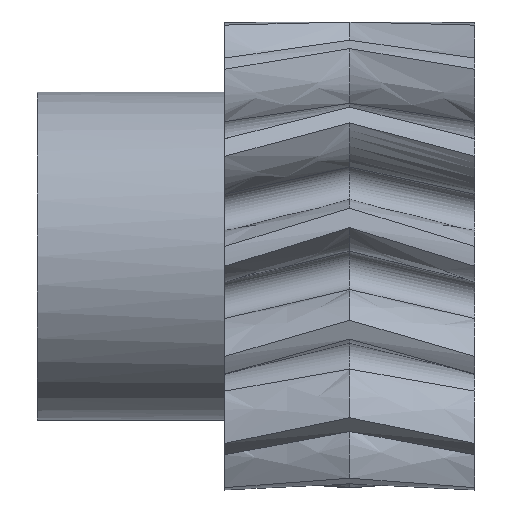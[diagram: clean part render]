
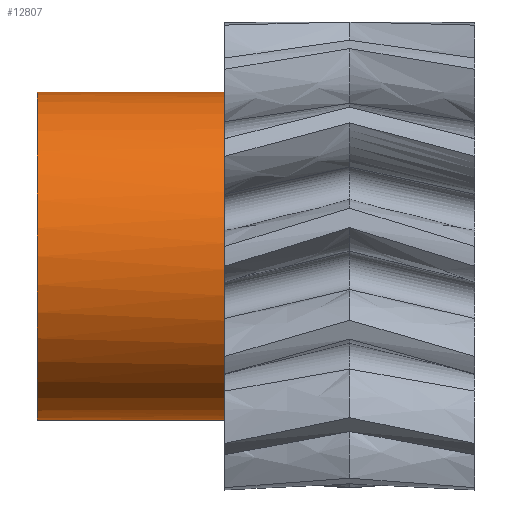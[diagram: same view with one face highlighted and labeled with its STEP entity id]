
A CAD part, left-side view. The second image highlights one B-rep face of the part: STEP entity #12807.
In plain terms, the highlighted cylindrical face has radius 5.25 mm (diameter 10.5 mm), a partial arc.
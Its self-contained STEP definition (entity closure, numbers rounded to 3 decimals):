
#11 = DIRECTION ( 'NONE',  ( 0., -1., 0. ) ) ;
#25 = ORIENTED_EDGE ( 'NONE', *, *, #12238, .T. ) ;
#63 = VERTEX_POINT ( 'NONE', #2931 ) ;
#276 = DIRECTION ( 'NONE',  ( 0., 0., 1. ) ) ;
#520 = VERTEX_POINT ( 'NONE', #10948 ) ;
#872 = DIRECTION ( 'NONE',  ( 0., 1., 0. ) ) ;
#1102 = VERTEX_POINT ( 'NONE', #16288 ) ;
#1390 = AXIS2_PLACEMENT_3D ( 'NONE', #16551, #16469, #9709 ) ;
#1540 = EDGE_CURVE ( 'NONE', #63, #14493, #7695, .T. ) ;
#1541 = CARTESIAN_POINT ( 'NONE',  ( 0., 0., 0. ) ) ;
#1940 = CIRCLE ( 'NONE', #5720, 5.25 ) ;
#2056 = ORIENTED_EDGE ( 'NONE', *, *, #13327, .T. ) ;
#2130 = VECTOR ( 'NONE', #10476, 1000. ) ;
#2185 = AXIS2_PLACEMENT_3D ( 'NONE', #7581, #15210, #16559 ) ;
#2858 = CIRCLE ( 'NONE', #8533, 5.25 ) ;
#2931 = CARTESIAN_POINT ( 'NONE',  ( 0., 6., 5.25 ) ) ;
#3064 = ORIENTED_EDGE ( 'NONE', *, *, #8711, .T. ) ;
#3147 = DIRECTION ( 'NONE',  ( 0., 0., 1. ) ) ;
#3324 = CARTESIAN_POINT ( 'NONE',  ( 0., 6., -5.25 ) ) ;
#3467 = VERTEX_POINT ( 'NONE', #10879 ) ;
#3766 = DIRECTION ( 'NONE',  ( 0., 1., 0. ) ) ;
#3935 = CARTESIAN_POINT ( 'NONE',  ( 0., 0., 0. ) ) ;
#4033 = ORIENTED_EDGE ( 'NONE', *, *, #8962, .F. ) ;
#4137 = VECTOR ( 'NONE', #11, 1000. ) ;
#4239 = DIRECTION ( 'NONE',  ( 0., 1., 0. ) ) ;
#4359 = CARTESIAN_POINT ( 'NONE',  ( 0., 0., 5.25 ) ) ;
#4523 = AXIS2_PLACEMENT_3D ( 'NONE', #13865, #4713, #13699 ) ;
#4713 = DIRECTION ( 'NONE',  ( 0., -1., 0. ) ) ;
#4957 = FACE_OUTER_BOUND ( 'NONE', #8773, .T. ) ;
#5165 = CARTESIAN_POINT ( 'NONE',  ( 0., 6., 5.25 ) ) ;
#5417 = LINE ( 'NONE', #10565, #2130 ) ;
#5463 = DIRECTION ( 'NONE',  ( 0., 1., 0. ) ) ;
#5638 = DIRECTION ( 'NONE',  ( 0., 0., 1. ) ) ;
#5720 = AXIS2_PLACEMENT_3D ( 'NONE', #9608, #5809, #5638 ) ;
#5809 = DIRECTION ( 'NONE',  ( 0., 1., 0. ) ) ;
#5923 = VERTEX_POINT ( 'NONE', #8185 ) ;
#6520 = CIRCLE ( 'NONE', #1390, 5.25 ) ;
#6684 = AXIS2_PLACEMENT_3D ( 'NONE', #1541, #3766, #9483 ) ;
#7234 = AXIS2_PLACEMENT_3D ( 'NONE', #3935, #5463, #14264 ) ;
#7581 = CARTESIAN_POINT ( 'NONE',  ( 0., 0., 0. ) ) ;
#7695 = LINE ( 'NONE', #5165, #4137 ) ;
#7899 = DIRECTION ( 'NONE',  ( 0., 1., 0. ) ) ;
#8184 = ORIENTED_EDGE ( 'NONE', *, *, #1540, .F. ) ;
#8185 = CARTESIAN_POINT ( 'NONE',  ( 0., 0., -5.25 ) ) ;
#8533 = AXIS2_PLACEMENT_3D ( 'NONE', #16090, #7899, #3147 ) ;
#8711 = EDGE_CURVE ( 'NONE', #520, #1102, #9451, .T. ) ;
#8773 = EDGE_LOOP ( 'NONE', ( #8184, #4033, #14467, #2056, #25, #10286, #11696, #10199, #3064, #9826 ) ) ;
#8962 = EDGE_CURVE ( 'NONE', #10411, #63, #2858, .T. ) ;
#9324 = AXIS2_PLACEMENT_3D ( 'NONE', #14916, #872, #11269 ) ;
#9451 = CIRCLE ( 'NONE', #2185, 5.25 ) ;
#9483 = DIRECTION ( 'NONE',  ( 0., 0., 1. ) ) ;
#9608 = CARTESIAN_POINT ( 'NONE',  ( 0., 0., 0. ) ) ;
#9709 = DIRECTION ( 'NONE',  ( 0., 0., 1. ) ) ;
#9826 = ORIENTED_EDGE ( 'NONE', *, *, #12311, .T. ) ;
#9946 = CARTESIAN_POINT ( 'NONE',  ( -5.097, 0., -1.256 ) ) ;
#10199 = ORIENTED_EDGE ( 'NONE', *, *, #14173, .T. ) ;
#10286 = ORIENTED_EDGE ( 'NONE', *, *, #10844, .T. ) ;
#10411 = VERTEX_POINT ( 'NONE', #3324 ) ;
#10476 = DIRECTION ( 'NONE',  ( 0., -1., 0. ) ) ;
#10565 = CARTESIAN_POINT ( 'NONE',  ( 0., 6., -5.25 ) ) ;
#10844 = EDGE_CURVE ( 'NONE', #15562, #15478, #15822, .T. ) ;
#10879 = CARTESIAN_POINT ( 'NONE',  ( -5.097, 0., 1.256 ) ) ;
#10948 = CARTESIAN_POINT ( 'NONE',  ( -3.93, 0., 3.481 ) ) ;
#11269 = DIRECTION ( 'NONE',  ( 0., 0., 1. ) ) ;
#11564 = CIRCLE ( 'NONE', #16165, 5.25 ) ;
#11696 = ORIENTED_EDGE ( 'NONE', *, *, #14577, .T. ) ;
#11938 = EDGE_CURVE ( 'NONE', #10411, #5923, #5417, .T. ) ;
#12238 = EDGE_CURVE ( 'NONE', #16600, #15562, #11564, .T. ) ;
#12311 = EDGE_CURVE ( 'NONE', #1102, #14493, #13166, .T. ) ;
#12426 = CARTESIAN_POINT ( 'NONE',  ( -3.93, 0., -3.481 ) ) ;
#12807 = ADVANCED_FACE ( 'NONE', ( #4957 ), #16392, .T. ) ;
#13166 = CIRCLE ( 'NONE', #6684, 5.25 ) ;
#13300 = CARTESIAN_POINT ( 'NONE',  ( 0., 0., 0. ) ) ;
#13327 = EDGE_CURVE ( 'NONE', #5923, #16600, #16673, .T. ) ;
#13699 = DIRECTION ( 'NONE',  ( 0., 0., -1. ) ) ;
#13865 = CARTESIAN_POINT ( 'NONE',  ( 0., 6., 0. ) ) ;
#14173 = EDGE_CURVE ( 'NONE', #3467, #520, #6520, .T. ) ;
#14264 = DIRECTION ( 'NONE',  ( 0., 0., 1. ) ) ;
#14467 = ORIENTED_EDGE ( 'NONE', *, *, #11938, .T. ) ;
#14493 = VERTEX_POINT ( 'NONE', #4359 ) ;
#14577 = EDGE_CURVE ( 'NONE', #15478, #3467, #1940, .T. ) ;
#14793 = CARTESIAN_POINT ( 'NONE',  ( -1.862, 0., -4.909 ) ) ;
#14916 = CARTESIAN_POINT ( 'NONE',  ( 0., 0., 0. ) ) ;
#15210 = DIRECTION ( 'NONE',  ( 0., 1., 0. ) ) ;
#15478 = VERTEX_POINT ( 'NONE', #9946 ) ;
#15562 = VERTEX_POINT ( 'NONE', #12426 ) ;
#15822 = CIRCLE ( 'NONE', #9324, 5.25 ) ;
#16090 = CARTESIAN_POINT ( 'NONE',  ( 0., 6., 0. ) ) ;
#16165 = AXIS2_PLACEMENT_3D ( 'NONE', #13300, #4239, #276 ) ;
#16288 = CARTESIAN_POINT ( 'NONE',  ( -1.862, 0., 4.909 ) ) ;
#16392 = CYLINDRICAL_SURFACE ( 'NONE', #4523, 5.25 ) ;
#16469 = DIRECTION ( 'NONE',  ( 0., 1., 0. ) ) ;
#16551 = CARTESIAN_POINT ( 'NONE',  ( 0., 0., 0. ) ) ;
#16559 = DIRECTION ( 'NONE',  ( 0., 0., 1. ) ) ;
#16600 = VERTEX_POINT ( 'NONE', #14793 ) ;
#16673 = CIRCLE ( 'NONE', #7234, 5.25 ) ;
